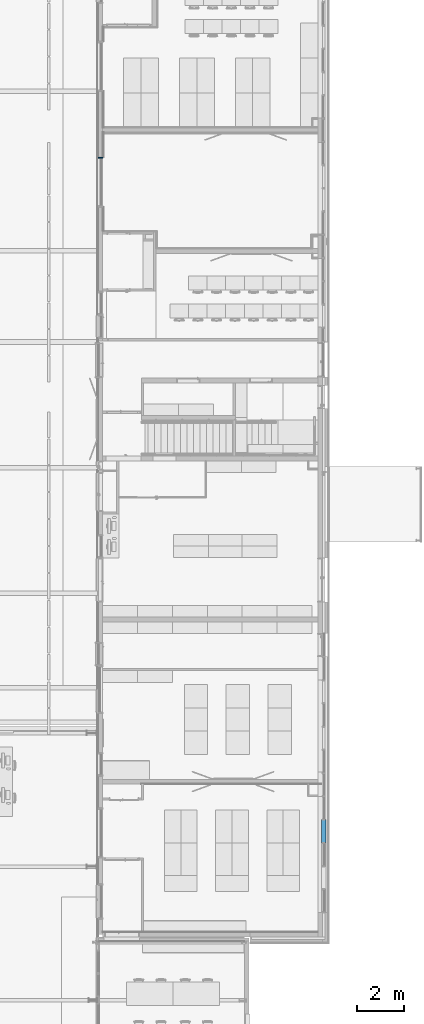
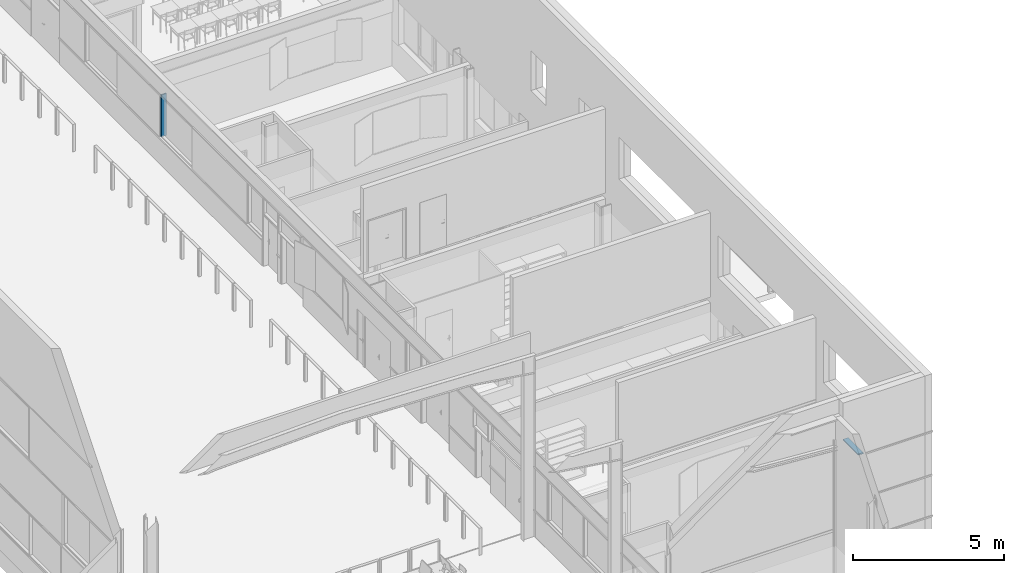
# One storey, part 14 of 137: 2 members, 2 elements without a shape of their own.
"""IFC2X3 building model written with IfcOpenShell, lengths in centimetres."""

from ifc_helpers import new_model, entity, si_unit, converted_unit, derived_unit, direction, frame, frame_2d, origin, place, context, subcontext, project, spatial, rectangle, extrude, material, type_object, element, aggregate, save


model = new_model("IFC2X3")

# Units and contexts
model_context = context("Model", 3, precision=0.001, world=origin(), true_north=direction((6.12303176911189e-17, 1.0)))
body_context = subcontext(model_context, "Body", "Model", "MODEL_VIEW")
ifc_project = project(units=[si_unit("LENGTHUNIT", "METRE", prefix="CENTI"), si_unit("AREAUNIT", "SQUARE_METRE"), si_unit("VOLUMEUNIT", "CUBIC_METRE"), converted_unit("PLANEANGLEUNIT", "DEGREE", entity("IfcRatioMeasure", 0.0174532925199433), si_unit("PLANEANGLEUNIT", "RADIAN"), dimensions=[0, 0, 0, 0, 0, 0, 0]), si_unit("MASSUNIT", "GRAM", prefix="KILO"), si_unit("TIMEUNIT", "SECOND"), si_unit("FREQUENCYUNIT", "HERTZ"), si_unit("THERMODYNAMICTEMPERATUREUNIT", "DEGREE_CELSIUS"), derived_unit("THERMALTRANSMITTANCEUNIT", [(si_unit("MASSUNIT", "GRAM", prefix="KILO"), 1), (si_unit("THERMODYNAMICTEMPERATUREUNIT", "KELVIN"), -1), (si_unit("TIMEUNIT", "SECOND"), -3)]), derived_unit("VOLUMETRICFLOWRATEUNIT", [(si_unit("LENGTHUNIT", "METRE"), 3), (si_unit("TIMEUNIT", "SECOND"), -1)]), si_unit("ELECTRICCURRENTUNIT", "AMPERE"), si_unit("ELECTRICVOLTAGEUNIT", "VOLT"), si_unit("POWERUNIT", "WATT"), si_unit("FORCEUNIT", "NEWTON", prefix="KILO"), si_unit("ILLUMINANCEUNIT", "LUX"), si_unit("LUMINOUSFLUXUNIT", "LUMEN"), si_unit("LUMINOUSINTENSITYUNIT", "CANDELA"), derived_unit("USERDEFINED", [(si_unit("MASSUNIT", "GRAM", prefix="KILO"), -1), (si_unit("LENGTHUNIT", "METRE"), -2), (si_unit("TIMEUNIT", "SECOND"), 3), (si_unit("LUMINOUSFLUXUNIT", "LUMEN"), 1)]), derived_unit("LINEARVELOCITYUNIT", [(si_unit("LENGTHUNIT", "METRE"), 1), (si_unit("TIMEUNIT", "SECOND"), -1)]), si_unit("PRESSUREUNIT", "PASCAL"), derived_unit("USERDEFINED", [(si_unit("LENGTHUNIT", "METRE"), -2), (si_unit("MASSUNIT", "GRAM", prefix="KILO"), 1), (si_unit("TIMEUNIT", "SECOND"), -2)])], contexts=[model_context])

# Site, building, storey
site_placement = place(None, frame((8.62739174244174, -249.285249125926, 0.0)))
site = spatial("IfcSite", under=ifc_project, at=site_placement, Name="Default", CompositionType="ELEMENT")
building_placement = place(site_placement, origin())
building = spatial("IfcBuilding", under=site, at=building_placement, CompositionType="ELEMENT")
storey_placement = place(building_placement, origin())
storey = spatial("IfcBuildingStorey", under=building, at=storey_placement, Name="RDC", CompositionType="ELEMENT", Elevation=-8.82465566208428e-11)

# Curtain wall, member
curtain_wall_type = type_object("IfcCurtainWallType", Name="Mur-rideau:Simple panneau", PredefinedType="NOTDEFINED")
curtain_wall_1_placement = place(storey_placement, origin())
curtain_wall_1 = element("IfcCurtainWall", 1, at=curtain_wall_1_placement, inside=storey, type_object=curtain_wall_type, Name="Mur-rideau:Simple panneau", ObjectType="Mur-rideau:Simple panneau")
ifc_material = material(Name="Plastique, blanc opaque")
member_1_placement = place(curtain_wall_1_placement, origin())
member_1 = element("IfcMember", 2, at=member_1_placement, material=ifc_material, Name="Mur-rideau:Simple panneau", ObjectType="Mur-rideau:Simple panneau", context=body_context, shape_type="SweptSolid", body=[
    extrude(rectangle(XDim=5.0, YDim=20.0000000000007, at=frame_2d((2.70894418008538e-14, 0.0), x_axis=(1.0, 0.0))), frame((4003.90482781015, 3039.68519336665, 277.500000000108), z_axis=(0.0, 1.0, 0.0), x_axis=(0.0, 0.0, -1.0)), (0.0, 0.0, 1.0), 99.9999999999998),
])
aggregate(curtain_wall_1, [member_1])

curtain_wall_2_placement = place(storey_placement, origin())
curtain_wall_2 = element("IfcCurtainWall", 3, at=curtain_wall_2_placement, inside=storey, type_object=curtain_wall_type, Name="Mur-rideau:Simple panneau", ObjectType="Mur-rideau:Simple panneau")
member_2_placement = place(curtain_wall_2_placement, origin())
member_2 = element("IfcMember", 4, at=member_2_placement, material=ifc_material, Name="Mur-rideau:Simple panneau", ObjectType="Mur-rideau:Simple panneau", context=body_context, shape_type="SweptSolid", body=[
    extrude(rectangle(XDim=19.9999999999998, YDim=4.99999999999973, at=frame_2d((0.0, -4.33209024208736e-13), x_axis=(1.0, 0.0))), frame((3043.9048277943, 5986.23020813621, 110.0), z_axis=(0.0, 0.0, 1.0), x_axis=(-1.0, 0.0, 0.0)), (0.0, 0.0, 1.0), 170.0),
])
aggregate(curtain_wall_2, [member_2])

save(model, "model.ifc")
